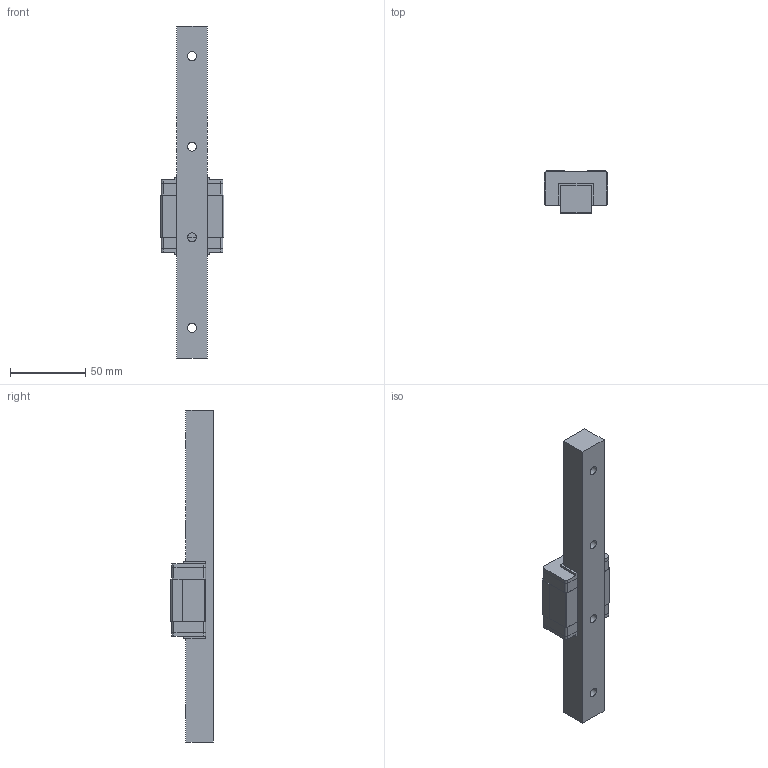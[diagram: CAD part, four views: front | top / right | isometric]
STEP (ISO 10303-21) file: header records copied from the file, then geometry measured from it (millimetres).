
FILE_DESCRIPTION((''),'2;1');
FILE_NAME('E:\PDF郪磁芞\DFS-B\DFS20BS.STP','2018-01-31T12:49:27',(''),(''),'STEP Write','Mastercam V9 ... CNC Software, Inc.','');
FILE_SCHEMA(('CONFIG_CONTROL_DESIGN'));
Length unit declared in the file: millimetre
Bounding box: 42 x 28 x 220 mm (x, y, z)
Volume: 108211.9 mm3; surface area: 33405.1 mm2
Topology: 6 solids, 6 shells, 106 faces, 490 edges, 618 vertices
Faces by surface type: plane 80, cylinder 26
Full cylindrical faces by diameter (mm): 4.5 x2, 6 x4, 9.5 x4
Entity records: 4594 total; most frequent: CARTESIAN_POINT 1021, DIRECTION 787, ORIENTED_EDGE 508, VECTOR 365, LINE 365, EDGE_CURVE 254, TRIMMED_CURVE 216, AXIS2_PLACEMENT_3D 211
